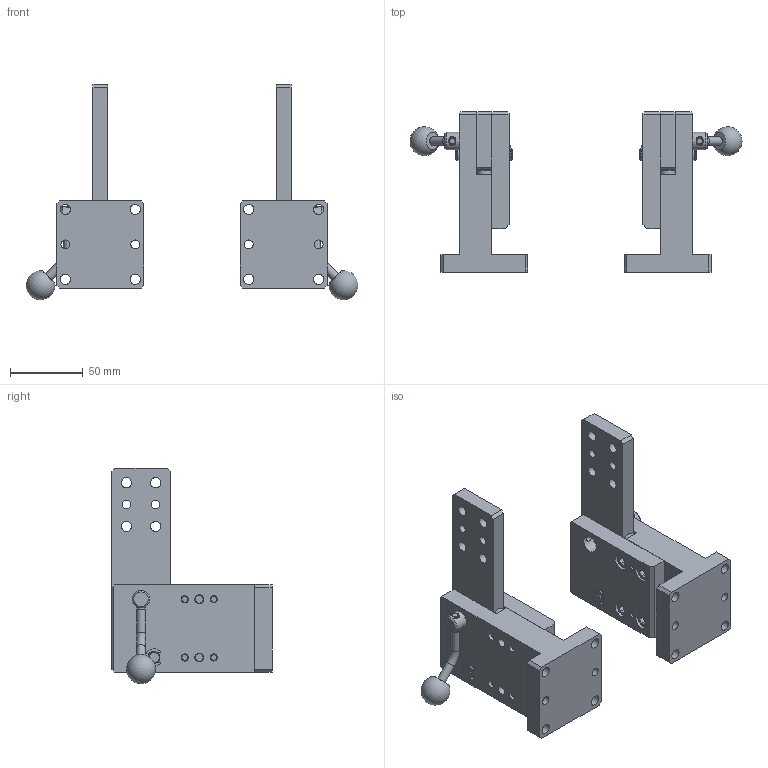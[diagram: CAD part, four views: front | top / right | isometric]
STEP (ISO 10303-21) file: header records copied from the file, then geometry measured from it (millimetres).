
FILE_DESCRIPTION(/* description */ (''),/* implementation_level */ '2;1');
FILE_NAME(/* name */ 'XZ0TYAL060Z140_stp.stp',/* time_stamp */ '2018-08-28T12:07:14+08:00',/* author */ (''),/* organization */ (''),/* preprocessor_version */ 'ST-DEVELOPER v16',/* originating_system */ 'SIEMENS PLM Software NX 11.0',/* authorisation */ '');
FILE_SCHEMA (('AUTOMOTIVE_DESIGN { 1 0 10303 214 3 1 1 1 }'));
Length unit declared in the file: millimetre
Products named in the file (1): XZ0TYAL060Z140_stp
Bounding box: 228.03 x 110 x 148.07 mm (x, y, z)
Volume: 513067.1 mm3; surface area: 149169.4 mm2
Topology: 54 solids, 54 shells, 768 faces, 1904 edges, 1250 vertices
Faces by surface type: plane 330, cylinder 256, cone 118, torus 40, bspline 16, sphere 8
Full cylindrical faces by diameter (mm): 2.458 x2, 2.459 x2, 2.5 x2, 2.675 x2, 3 x2, 3.2 x2, 3.242 x8, 4 x4, 4.001 x4, 4.9 x10, 4.915 x8, 4.917 x8, 5 x10, 5.35 x2, 5.8 x4, 6 x44, 7 x32, 8 x12, 10 x12, 11 x8, 12 x10
Entity records: 26715 total; most frequent: CARTESIAN_POINT 4761, DIRECTION 3374, ORIENTED_EDGE 2760, AXIS2_PLACEMENT_3D 1391, EDGE_CURVE 1380, EDGE_LOOP 1274, VERTEX_POINT 1078, FACE_BOUND 944
